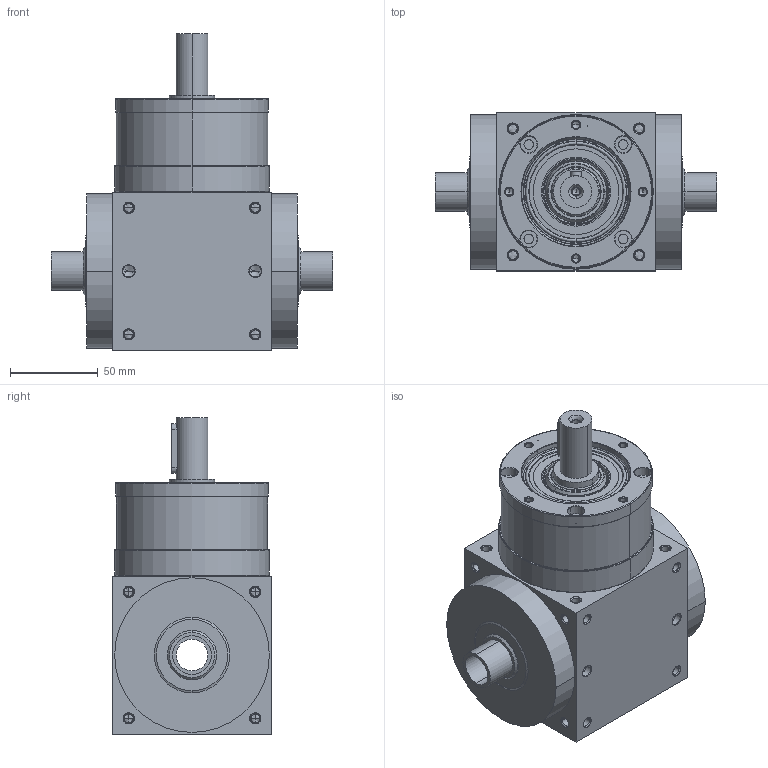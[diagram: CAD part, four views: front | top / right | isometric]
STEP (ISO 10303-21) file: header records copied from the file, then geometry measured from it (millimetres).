
FILE_DESCRIPTION((''),'2;1');
FILE_NAME('AT090C-1_ASM','2009-02-04T',('d00080'),(''),'PRO/ENGINEER BY PARAMETRIC TECHNOLOGY CORPORATION, 2006170','PRO/ENGINEER BY PARAMETRIC TECHNOLOGY CORPORATION, 2006170','');
FILE_SCHEMA(('CONFIG_CONTROL_DESIGN'));
Length unit declared in the file: millimetre
Products named in the file (6): AT090C-1; P1801400001; 22400071004; P1208400001; P0904401001; AT090C-1_ASM
Assembly tree (5 placements, depth 2):
  AT090C-1_ASM
    AT090C-1
    P1801400001
    22400071004
    P1208400001
    P0904401001
Bounding box: 160 x 90 x 180 mm (x, y, z)
Volume: 1090816.8 mm3; surface area: 138155.1 mm2
Topology: 6 solids, 36 shells, 579 faces, 1431 edges, 848 vertices
Faces by surface type: cylinder 258, cone 204, plane 75, torus 38, bspline 4
Entity records: 17761 total; most frequent: CARTESIAN_POINT 3994, DIRECTION 3085, ORIENTED_EDGE 2616, EDGE_CURVE 1367, AXIS2_PLACEMENT_3D 1300, VERTEX_POINT 848, CIRCLE 706, EDGE_LOOP 680
